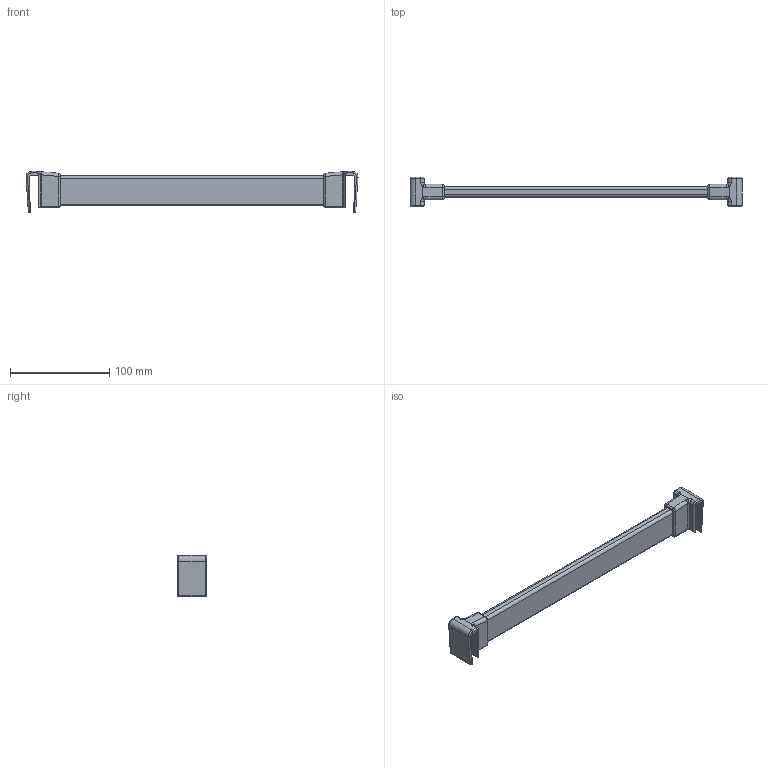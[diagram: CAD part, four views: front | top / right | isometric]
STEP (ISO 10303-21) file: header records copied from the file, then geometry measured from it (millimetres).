
FILE_DESCRIPTION (( 'STEP AP214' ), '1' );
FILE_NAME ('_Querreling_KAB-400_KS-19_P602_Glashalter.step', '2010-08-26T14:58:43', ( 'grass' ), ( '' ), 'SwSTEP 2.0', 'SolidWorks 2009', '' );
FILE_SCHEMA (( 'AUTOMOTIVE_DESIGN' ));
Length unit declared in the file: millimetre
Products named in the file (1): _Querreling_KAB-400_KS-19_P602_Glashalter
Bounding box: 334.78 x 30 x 41.5 mm (x, y, z)
Volume: 117090 mm3; surface area: 34500.6 mm2
Topology: 1 solids, 1 shells, 124 faces, 300 edges, 176 vertices
Faces by surface type: cylinder 58, plane 34, torus 16, bspline 12, sphere 4
Entity records: 5090 total; most frequent: CARTESIAN_POINT 2269, ORIENTED_EDGE 592, DIRECTION 590, EDGE_CURVE 296, AXIS2_PLACEMENT_3D 225, VERTEX_POINT 176, LINE 140, VECTOR 140
